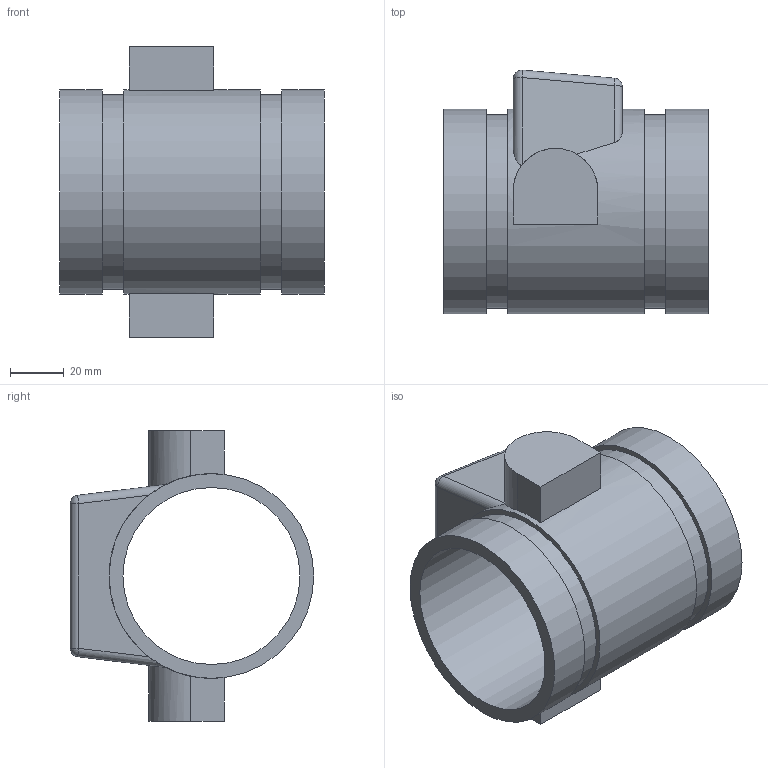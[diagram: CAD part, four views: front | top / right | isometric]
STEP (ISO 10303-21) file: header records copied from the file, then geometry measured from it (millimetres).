
FILE_DESCRIPTION(/* description */ ('VIC FIRELOCK CHECK VALVE SERIES 717','CAx-IF Rec.Pracs.---Representation and Presentation of Product Manufacturing Information (PMI)---4.0---2014-10-13'),/* implementation_level */ '2;1');
FILE_NAME(/* name */ 'C:\Users\Vjadhav\AppData\Roaming\Autodesk\ApplicationPlugins\Back Up\Victaulic_FP-FireLock_Valve Check_Series 717 (OGS)\Victaulic_FP-FireLock_Valve Check_02.5 (76.1) (65).stp',/* time_stamp */ '2020-07-17T15:00:31+06:00',/* author */ ('kkamble'),/* organization */ ('Victaulic'),/* preprocessor_version */ 'ST-DEVELOPER v17.2',/* originating_system */ 'Autodesk Inventor 2019',/* authorisation */ '');
FILE_SCHEMA (('AP242_MANAGED_MODEL_BASED_3D_ENGINEERING_MIM_LF { 1 0 10303 442 1 1 4 }'));
Length unit declared in the file: inch
Products named in the file (2): 717-02.5 (76.1); 717 - 02.5 (76.1)
Assembly tree (1 placements, depth 2):
  717-02.5 (76.1)
    717 - 02.5 (76.1)
Bounding box: 98.55 x 90.68 x 108.2 mm (x, y, z)
Volume: 175003.7 mm3; surface area: 57584.2 mm2
Topology: 1 solids, 1 shells, 40 faces, 101 edges, 68 vertices
Faces by surface type: plane 19, cylinder 16, sphere 4, cone 1
Full cylindrical faces by diameter (mm): 65.888 x1, 72.263 x2, 76.2 x3
Entity records: 1426 total; most frequent: CARTESIAN_POINT 323, DIRECTION 220, ORIENTED_EDGE 202, EDGE_CURVE 101, AXIS2_PLACEMENT_3D 91, VERTEX_POINT 68, EDGE_LOOP 47, CIRCLE 45
